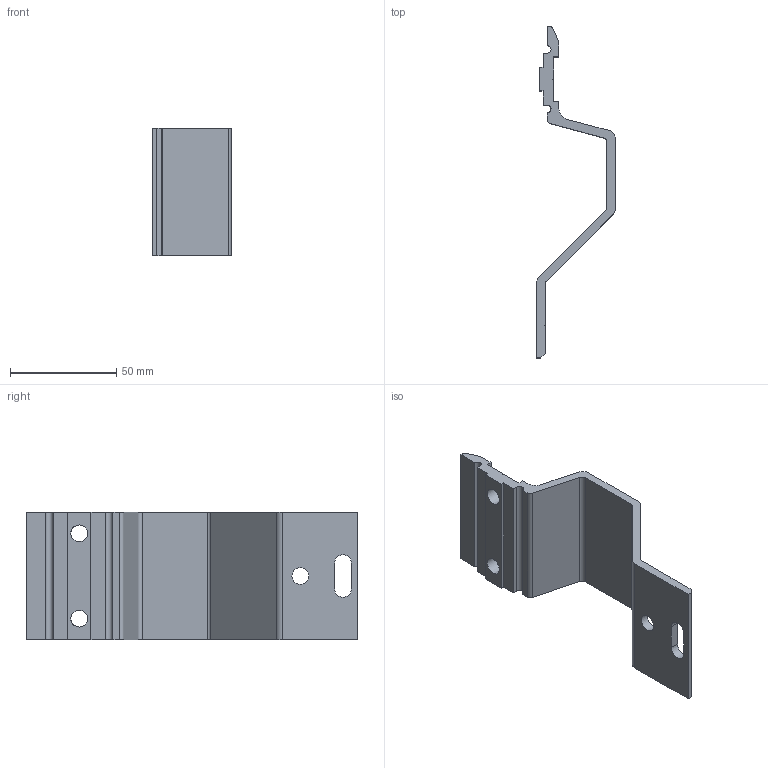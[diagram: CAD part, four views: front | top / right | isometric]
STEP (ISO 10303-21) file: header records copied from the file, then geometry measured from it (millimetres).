
FILE_DESCRIPTION((''),'2;1');
FILE_NAME('C:\Vault Klient\Projekt\Step\100-1225.stp','2009-12-10T08:00:48',('Mathias'),(''),'Autodesk Inventor 2010','Autodesk Inventor 2010','');
FILE_SCHEMA(('CONFIG_CONTROL_DESIGN'));
Length unit declared in the file: millimetre
Products named in the file (1): 100-1225
Bounding box: 37 x 156 x 60 mm (x, y, z)
Volume: 47552.8 mm3; surface area: 25644.6 mm2
Topology: 1 solids, 1 shells, 57 faces, 170 edges, 113 vertices
Faces by surface type: plane 40, cylinder 14, bspline 3
Entity records: 1977 total; most frequent: CARTESIAN_POINT 387, ORIENTED_EDGE 332, DIRECTION 320, EDGE_CURVE 166, VECTOR 122, LINE 122, VERTEX_POINT 112, AXIS2_PLACEMENT_3D 99
